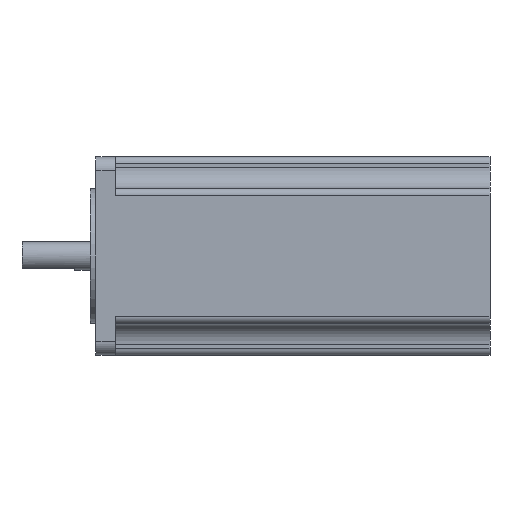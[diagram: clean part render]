
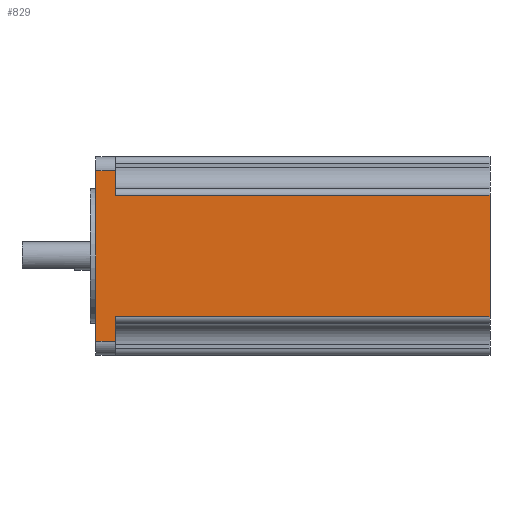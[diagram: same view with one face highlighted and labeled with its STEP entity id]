
A CAD part, left-side view. The second image highlights one B-rep face of the part: STEP entity #829.
In plain terms, the highlighted planar face has unit normal (-1, 0, 0).
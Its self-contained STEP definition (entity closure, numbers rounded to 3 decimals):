
#503 = VERTEX_POINT ( 'NONE', #1370 ) ;
#797 = ORIENTED_EDGE ( 'NONE', *, *, #798, .T. ) ;
#798 = EDGE_CURVE ( 'NONE', #820, #805, #1133, .T. ) ;
#805 = VERTEX_POINT ( 'NONE', #1117 ) ;
#807 = VERTEX_POINT ( 'NONE', #1115 ) ;
#808 = ORIENTED_EDGE ( 'NONE', *, *, #809, .T. ) ;
#809 = EDGE_CURVE ( 'NONE', #807, #810, #1114, .T. ) ;
#810 = VERTEX_POINT ( 'NONE', #1110 ) ;
#811 = ORIENTED_EDGE ( 'NONE', *, *, #813, .T. ) ;
#813 = EDGE_CURVE ( 'NONE', #810, #814, #1169, .T. ) ;
#814 = VERTEX_POINT ( 'NONE', #1165 ) ;
#815 = ORIENTED_EDGE ( 'NONE', *, *, #816, .T. ) ;
#816 = EDGE_CURVE ( 'NONE', #814, #817, #1164, .T. ) ;
#817 = VERTEX_POINT ( 'NONE', #1160 ) ;
#818 = ORIENTED_EDGE ( 'NONE', *, *, #819, .F. ) ;
#819 = EDGE_CURVE ( 'NONE', #820, #817, #1159, .T. ) ;
#820 = VERTEX_POINT ( 'NONE', #1155 ) ;
#822 = EDGE_CURVE ( 'NONE', #503, #805, #1154, .T. ) ;
#829 = ADVANCED_FACE ( 'NONE', ( #1144 ), #1138, .F. ) ;
#830 = EDGE_LOOP ( 'NONE', ( #892, #896, #901, #808, #811, #815, #818, #797 ) ) ;
#892 = ORIENTED_EDGE ( 'NONE', *, *, #822, .F. ) ;
#896 = ORIENTED_EDGE ( 'NONE', *, *, #897, .T. ) ;
#897 = EDGE_CURVE ( 'NONE', #503, #900, #1518, .T. ) ;
#900 = VERTEX_POINT ( 'NONE', #1514 ) ;
#901 = ORIENTED_EDGE ( 'NONE', *, *, #942, .F. ) ;
#942 = EDGE_CURVE ( 'NONE', #807, #900, #1626, .T. ) ;
#1110 = CARTESIAN_POINT ( 'NONE',  ( 0., 0., -45.4 ) ) ;
#1111 = DIRECTION ( 'NONE',  ( 0., -1., 0. ) ) ;
#1112 = VECTOR ( 'NONE', #1111, 1000. ) ;
#1113 = CARTESIAN_POINT ( 'NONE',  ( 0., 112., -45.4 ) ) ;
#1114 = LINE ( 'NONE', #1113, #1112 ) ;
#1115 = CARTESIAN_POINT ( 'NONE',  ( 0., 106.5, -45.4 ) ) ;
#1117 = CARTESIAN_POINT ( 'NONE',  ( 0., 112., -4. ) ) ;
#1130 = DIRECTION ( 'NONE',  ( 0., 1., 0. ) ) ;
#1131 = VECTOR ( 'NONE', #1130, 1000. ) ;
#1132 = CARTESIAN_POINT ( 'NONE',  ( 0., 112., -4. ) ) ;
#1133 = LINE ( 'NONE', #1132, #1131 ) ;
#1138 = PLANE ( 'NONE',  #1198 ) ;
#1144 = FACE_OUTER_BOUND ( 'NONE', #830, .T. ) ;
#1151 = DIRECTION ( 'NONE',  ( 0., 0., 1. ) ) ;
#1152 = VECTOR ( 'NONE', #1151, 1000. ) ;
#1153 = CARTESIAN_POINT ( 'NONE',  ( 0., 112., 0. ) ) ;
#1154 = LINE ( 'NONE', #1153, #1152 ) ;
#1155 = CARTESIAN_POINT ( 'NONE',  ( 0., 106.5, -4. ) ) ;
#1156 = DIRECTION ( 'NONE',  ( 0., 0., -1. ) ) ;
#1157 = VECTOR ( 'NONE', #1156, 1000. ) ;
#1158 = CARTESIAN_POINT ( 'NONE',  ( 0., 106.5, 0. ) ) ;
#1159 = LINE ( 'NONE', #1158, #1157 ) ;
#1160 = CARTESIAN_POINT ( 'NONE',  ( 0., 106.5, -11. ) ) ;
#1161 = DIRECTION ( 'NONE',  ( 0., 1., 0. ) ) ;
#1162 = VECTOR ( 'NONE', #1161, 1000. ) ;
#1163 = CARTESIAN_POINT ( 'NONE',  ( 0., 112., -11. ) ) ;
#1164 = LINE ( 'NONE', #1163, #1162 ) ;
#1165 = CARTESIAN_POINT ( 'NONE',  ( 0., 0., -11. ) ) ;
#1166 = DIRECTION ( 'NONE',  ( 0., 0., 1. ) ) ;
#1167 = VECTOR ( 'NONE', #1166, 1000. ) ;
#1168 = CARTESIAN_POINT ( 'NONE',  ( 0., 0., 0. ) ) ;
#1169 = LINE ( 'NONE', #1168, #1167 ) ;
#1195 = DIRECTION ( 'NONE',  ( 0., 0., -1. ) ) ;
#1196 = DIRECTION ( 'NONE',  ( 1., 0., 0. ) ) ;
#1197 = CARTESIAN_POINT ( 'NONE',  ( 0., 112., 0. ) ) ;
#1198 = AXIS2_PLACEMENT_3D ( 'NONE', #1197, #1196, #1195 ) ;
#1370 = CARTESIAN_POINT ( 'NONE',  ( 0., 112., -52.4 ) ) ;
#1514 = CARTESIAN_POINT ( 'NONE',  ( 0., 106.5, -52.4 ) ) ;
#1515 = DIRECTION ( 'NONE',  ( 0., -1., 0. ) ) ;
#1516 = VECTOR ( 'NONE', #1515, 1000. ) ;
#1517 = CARTESIAN_POINT ( 'NONE',  ( 0., 112., -52.4 ) ) ;
#1518 = LINE ( 'NONE', #1517, #1516 ) ;
#1623 = DIRECTION ( 'NONE',  ( 0., 0., -1. ) ) ;
#1624 = VECTOR ( 'NONE', #1623, 1000. ) ;
#1625 = CARTESIAN_POINT ( 'NONE',  ( 0., 106.5, -56.4 ) ) ;
#1626 = LINE ( 'NONE', #1625, #1624 ) ;
